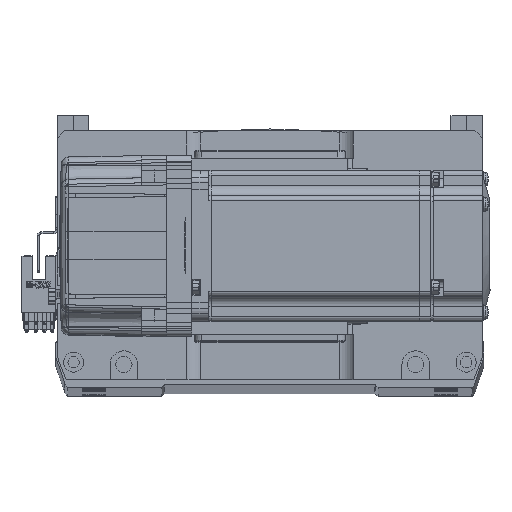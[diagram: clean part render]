
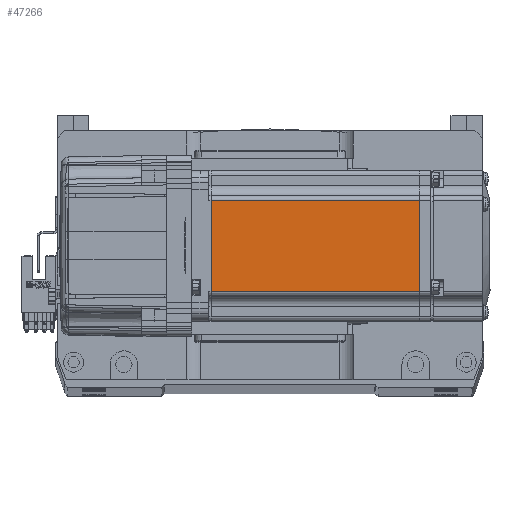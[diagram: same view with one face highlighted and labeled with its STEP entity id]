
A CAD part, top view. The second image highlights one B-rep face of the part: STEP entity #47266.
In plain terms, the highlighted planar face has unit normal (0, 0, 1) as drawn and (0, -1, 0) by its records, which use the part's own axes.
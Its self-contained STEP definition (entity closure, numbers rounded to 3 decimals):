
#3581 = DIRECTION ( 'NONE',  ( 0., -1., 0. ) ) ;
#5983 = DIRECTION ( 'NONE',  ( 0., 0., 1. ) ) ;
#7146 = EDGE_CURVE ( 'NONE', #56999, #29719, #23606, .T. ) ;
#11959 = DIRECTION ( 'NONE',  ( -1., 0., 0. ) ) ;
#13443 = ORIENTED_EDGE ( 'NONE', *, *, #39639, .T. ) ;
#13848 = CARTESIAN_POINT ( 'NONE',  ( -90.45, -30., 18. ) ) ;
#16333 = VERTEX_POINT ( 'NONE', #26496 ) ;
#21896 = CARTESIAN_POINT ( 'NONE',  ( -6.5, -30., -18. ) ) ;
#23158 = CARTESIAN_POINT ( 'NONE',  ( -6.5, -30., 18. ) ) ;
#23606 = LINE ( 'NONE', #23158, #63320 ) ;
#25070 = ORIENTED_EDGE ( 'NONE', *, *, #34461, .T. ) ;
#26496 = CARTESIAN_POINT ( 'NONE',  ( -90.45, -30., -18. ) ) ;
#28889 = LINE ( 'NONE', #21896, #53980 ) ;
#29719 = VERTEX_POINT ( 'NONE', #13848 ) ;
#30940 = EDGE_CURVE ( 'NONE', #29719, #16333, #52939, .T. ) ;
#31088 = VECTOR ( 'NONE', #52557, 1000. ) ;
#32323 = FACE_OUTER_BOUND ( 'NONE', #45798, .T. ) ;
#34461 = EDGE_CURVE ( 'NONE', #16333, #55915, #28889, .T. ) ;
#38282 = CARTESIAN_POINT ( 'NONE',  ( -7.75, -30., 18. ) ) ;
#39639 = EDGE_CURVE ( 'NONE', #55915, #56999, #40687, .T. ) ;
#39688 = DIRECTION ( 'NONE',  ( 0., 0., -1. ) ) ;
#39914 = VECTOR ( 'NONE', #5983, 1000. ) ;
#40687 = LINE ( 'NONE', #46860, #39914 ) ;
#42959 = DIRECTION ( 'NONE',  ( 1., 0., 0. ) ) ;
#44641 = PLANE ( 'NONE',  #55040 ) ;
#45798 = EDGE_LOOP ( 'NONE', ( #13443, #49478, #56239, #25070 ) ) ;
#46860 = CARTESIAN_POINT ( 'NONE',  ( -7.75, -30., -25. ) ) ;
#47266 = ADVANCED_FACE ( 'NONE', ( #32323 ), #44641, .T. ) ;
#49478 = ORIENTED_EDGE ( 'NONE', *, *, #7146, .T. ) ;
#50376 = CARTESIAN_POINT ( 'NONE',  ( -7.75, -30., -18. ) ) ;
#52557 = DIRECTION ( 'NONE',  ( 0., 0., -1. ) ) ;
#52939 = LINE ( 'NONE', #62520, #31088 ) ;
#53980 = VECTOR ( 'NONE', #42959, 1000. ) ;
#55040 = AXIS2_PLACEMENT_3D ( 'NONE', #65516, #3581, #39688 ) ;
#55915 = VERTEX_POINT ( 'NONE', #50376 ) ;
#56239 = ORIENTED_EDGE ( 'NONE', *, *, #30940, .T. ) ;
#56999 = VERTEX_POINT ( 'NONE', #38282 ) ;
#62520 = CARTESIAN_POINT ( 'NONE',  ( -90.45, -30., -25. ) ) ;
#63320 = VECTOR ( 'NONE', #11959, 1000. ) ;
#65516 = CARTESIAN_POINT ( 'NONE',  ( -6.5, -30., -25. ) ) ;
